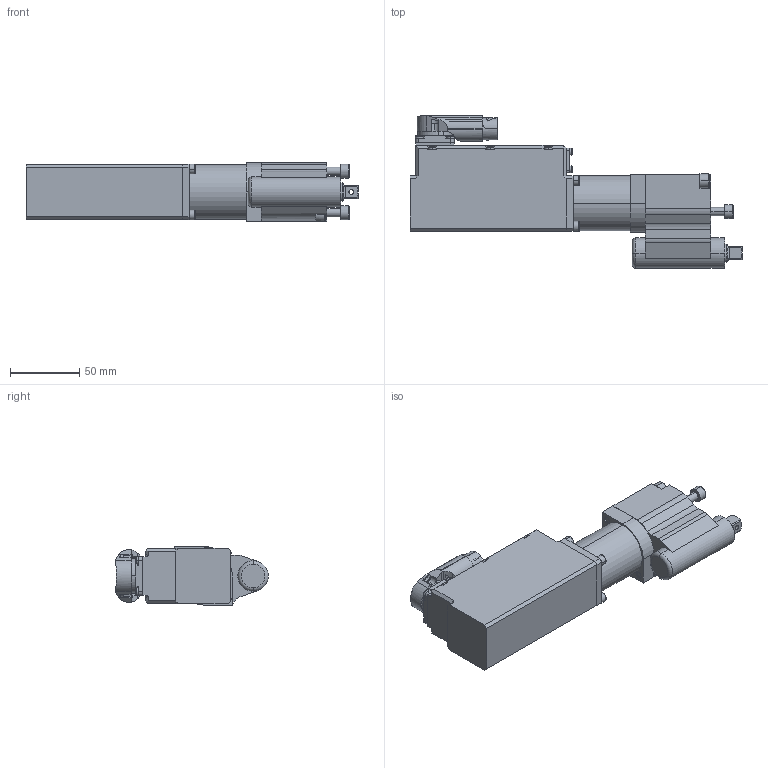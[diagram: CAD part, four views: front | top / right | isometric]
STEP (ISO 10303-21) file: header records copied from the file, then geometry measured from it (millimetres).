
FILE_DESCRIPTION (( 'STEP AP203' ), '1' );
FILE_NAME ('70121600_KSX1015OV38.STEP', '2020-01-15T11:18:08', ( 'admin' ), ( '' ), 'SwSTEP 2.0', 'SolidWorks 2017', '' );
FILE_SCHEMA (( 'CONFIG_CONTROL_DESIGN' ));
Length unit declared in the file: millimetre
Products named in the file (9): 70111180; 70111180_Pos_vorne; 70111000_KSX1_Stecker_vorne; 70111010; 70111005; 70111041; 70121600_KSX1015OV38; 70111000; 70111180_2
Assembly tree (8 placements, depth 4):
  70121600_KSX1015OV38
    70111000_KSX1_Stecker_vorne
      70111000
      70111180_Pos_vorne
        70111180_2
        70111180
    70111010
    70111005
    70111041
Bounding box: 240.3 x 110.39 x 42.53 mm (x, y, z)
Volume: 488434 mm3; surface area: 83713.6 mm2
Topology: 6 solids, 8 shells, 1700 faces, 4333 edges, 2733 vertices
Faces by surface type: cylinder 712, plane 518, cone 276, torus 103, sphere 48, bspline 43
Entity records: 56001 total; most frequent: CARTESIAN_POINT 14931, ORIENTED_EDGE 8534, DIRECTION 8288, EDGE_CURVE 4267, AXIS2_PLACEMENT_3D 3325, VERTEX_POINT 2733, EDGE_LOOP 1868, ADVANCED_FACE 1700
